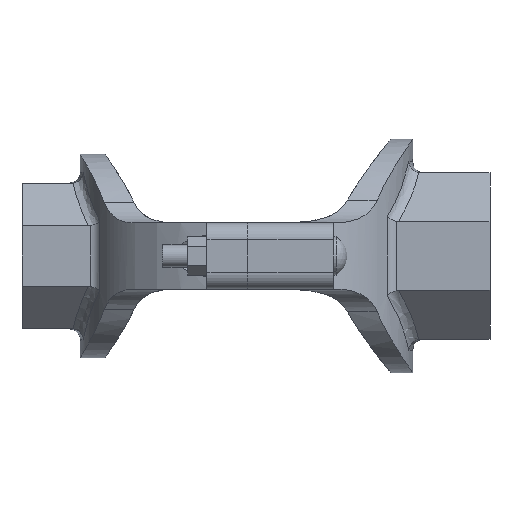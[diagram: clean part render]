
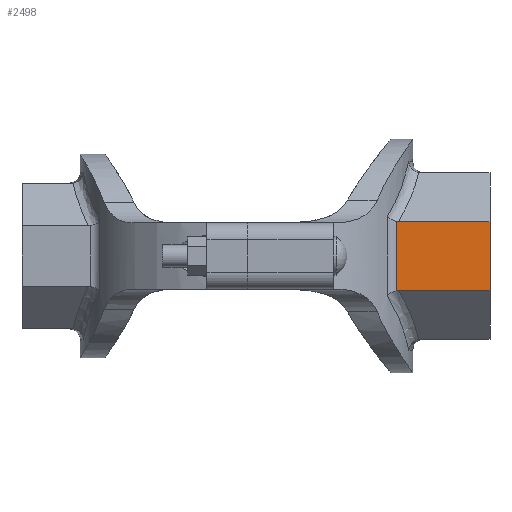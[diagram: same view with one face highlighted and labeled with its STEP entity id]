
A CAD part, left-side view. The second image highlights one B-rep face of the part: STEP entity #2498.
In plain terms, the highlighted planar face has unit normal (-1, 0, 0) as drawn and (1, 0, 0) by its records, which use the part's own axes.
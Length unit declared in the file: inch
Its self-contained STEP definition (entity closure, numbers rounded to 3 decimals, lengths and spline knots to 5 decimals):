
#84=B_SPLINE_CURVE_WITH_KNOTS('',3,(#4499,#4500,#4501,#4502),
 .UNSPECIFIED.,.F.,.F.,(4,4),(0.,0.11688),.UNSPECIFIED.);
#87=B_SPLINE_CURVE_WITH_KNOTS('',3,(#4550,#4551,#4552,#4553),
 .UNSPECIFIED.,.F.,.F.,(4,4),(0.82611,0.9633),
 .UNSPECIFIED.);
#300=FACE_OUTER_BOUND('',#449,.T.);
#449=EDGE_LOOP('',(#2100,#2101,#2102,#2103,#2104,#2105));
#581=LINE('',#4588,#765);
#592=LINE('',#4733,#776);
#636=LINE('',#5186,#820);
#637=LINE('',#5188,#821);
#765=VECTOR('',#3211,0.3937);
#776=VECTOR('',#3246,0.3937);
#820=VECTOR('',#3382,0.3937);
#821=VECTOR('',#3385,0.3937);
#1065=VERTEX_POINT('',#4496);
#1066=VERTEX_POINT('',#4498);
#1070=VERTEX_POINT('',#4538);
#1071=VERTEX_POINT('',#4549);
#1087=VERTEX_POINT('',#4732);
#1144=VERTEX_POINT('',#5184);
#1364=EDGE_CURVE('',#1065,#1066,#84,.T.);
#1369=EDGE_CURVE('',#1070,#1071,#87,.T.);
#1372=EDGE_CURVE('',#1070,#1066,#581,.T.);
#1396=EDGE_CURVE('',#1071,#1087,#592,.T.);
#1476=EDGE_CURVE('',#1065,#1144,#636,.T.);
#1477=EDGE_CURVE('',#1087,#1144,#637,.T.);
#2100=ORIENTED_EDGE('',*,*,#1372,.T.);
#2101=ORIENTED_EDGE('',*,*,#1364,.F.);
#2102=ORIENTED_EDGE('',*,*,#1476,.T.);
#2103=ORIENTED_EDGE('',*,*,#1477,.F.);
#2104=ORIENTED_EDGE('',*,*,#1396,.F.);
#2105=ORIENTED_EDGE('',*,*,#1369,.F.);
#2243=PLANE('',#2780);
#2498=ADVANCED_FACE('',(#300),#2243,.T.);
#2780=AXIS2_PLACEMENT_3D('',#5187,#3383,#3384);
#3211=DIRECTION('',(0.,0.,-1.));
#3246=DIRECTION('',(0.,1.,0.));
#3382=DIRECTION('',(0.,1.,0.));
#3383=DIRECTION('center_axis',(1.,0.,0.));
#3384=DIRECTION('ref_axis',(0.,0.,-1.));
#3385=DIRECTION('',(0.,0.,-1.));
#4496=CARTESIAN_POINT('',(1.89,3.42468,-0.78286));
#4498=CARTESIAN_POINT('',(1.89,3.37941,-0.78816));
#4499=CARTESIAN_POINT('Ctrl Pts',(1.89,3.42468,-0.78286));
#4500=CARTESIAN_POINT('Ctrl Pts',(1.89,3.40934,-0.78286));
#4501=CARTESIAN_POINT('Ctrl Pts',(1.89,3.39415,-0.78455));
#4502=CARTESIAN_POINT('Ctrl Pts',(1.89,3.37941,-0.78816));
#4538=CARTESIAN_POINT('',(1.89,3.37941,0.78816));
#4549=CARTESIAN_POINT('',(1.89,3.42468,0.78286));
#4550=CARTESIAN_POINT('Ctrl Pts',(1.89,3.37941,0.78816));
#4551=CARTESIAN_POINT('Ctrl Pts',(1.89,3.39415,0.78455));
#4552=CARTESIAN_POINT('Ctrl Pts',(1.89,3.40934,0.78286));
#4553=CARTESIAN_POINT('Ctrl Pts',(1.89,3.42468,0.78286));
#4588=CARTESIAN_POINT('',(1.89,3.37941,0.));
#4732=CARTESIAN_POINT('',(1.89,5.5,0.78286));
#4733=CARTESIAN_POINT('',(1.89,0.,0.78286));
#5184=CARTESIAN_POINT('',(1.89,5.5,-0.78286));
#5186=CARTESIAN_POINT('',(1.89,0.,-0.78286));
#5187=CARTESIAN_POINT('Origin',(1.89,0.,0.78286));
#5188=CARTESIAN_POINT('',(1.89,5.5,-0.78286));
